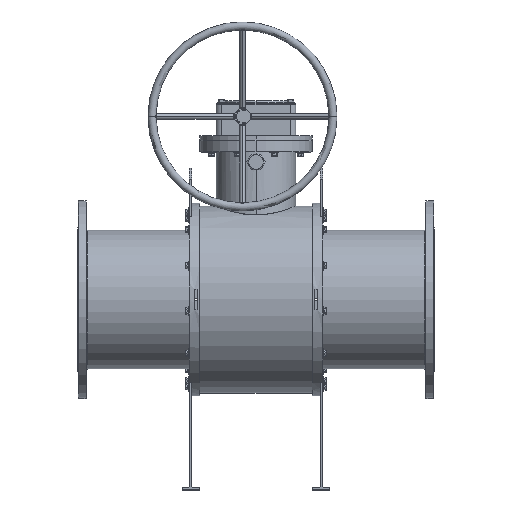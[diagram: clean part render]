
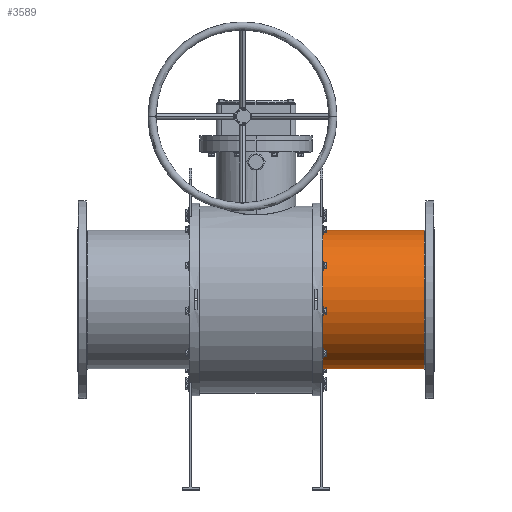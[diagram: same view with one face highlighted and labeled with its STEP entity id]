
A CAD part, top view. The second image highlights one B-rep face of the part: STEP entity #3589.
In plain terms, the highlighted cylindrical face has radius 256.55 mm (diameter 513.1 mm), a partial arc.
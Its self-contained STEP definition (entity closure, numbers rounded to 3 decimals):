
#908 = CARTESIAN_POINT ( 'NONE',  ( -660.5, -256.55, 0. ) ) ;
#1508 = DIRECTION ( 'NONE',  ( -1., 0., 0. ) ) ;
#2224 = FACE_OUTER_BOUND ( 'NONE', #19584, .T. ) ;
#2437 = ORIENTED_EDGE ( 'NONE', *, *, #27197, .F. ) ;
#2992 = LINE ( 'NONE', #908, #4607 ) ;
#3589 = ADVANCED_FACE ( 'NONE', ( #2224 ), #7669, .T. ) ;
#3769 = EDGE_CURVE ( 'NONE', #25298, #22578, #14478, .T. ) ;
#4088 = EDGE_CURVE ( 'NONE', #22578, #7958, #21546, .T. ) ;
#4607 = VECTOR ( 'NONE', #5347, 1000. ) ;
#5347 = DIRECTION ( 'NONE',  ( -1., 0., 0. ) ) ;
#6121 = CARTESIAN_POINT ( 'NONE',  ( -660.5, 256.55, 0. ) ) ;
#6990 = ORIENTED_EDGE ( 'NONE', *, *, #4088, .T. ) ;
#7669 = CYLINDRICAL_SURFACE ( 'NONE', #25556, 256.55 ) ;
#7845 = EDGE_CURVE ( 'NONE', #19793, #25298, #16600, .T. ) ;
#7958 = VERTEX_POINT ( 'NONE', #22387 ) ;
#9165 = VECTOR ( 'NONE', #23079, 1000. ) ;
#9995 = DIRECTION ( 'NONE',  ( 0., 1., 0. ) ) ;
#11438 = DIRECTION ( 'NONE',  ( 0., -1., 0. ) ) ;
#12434 = ORIENTED_EDGE ( 'NONE', *, *, #3769, .T. ) ;
#13516 = DIRECTION ( 'NONE',  ( -1., 0., 0. ) ) ;
#14478 = LINE ( 'NONE', #6121, #9165 ) ;
#15424 = CARTESIAN_POINT ( 'NONE',  ( 623.5, -256.55, 0. ) ) ;
#16005 = CARTESIAN_POINT ( 'NONE',  ( 623.5, 0., 0. ) ) ;
#16600 = CIRCLE ( 'NONE', #17485, 256.55 ) ;
#16680 = DIRECTION ( 'NONE',  ( 1., 0., 0. ) ) ;
#17485 = AXIS2_PLACEMENT_3D ( 'NONE', #16005, #1508, #9995 ) ;
#18750 = CARTESIAN_POINT ( 'NONE',  ( 247.5, 0., 0. ) ) ;
#18883 = ORIENTED_EDGE ( 'NONE', *, *, #7845, .T. ) ;
#19584 = EDGE_LOOP ( 'NONE', ( #18883, #12434, #6990, #2437 ) ) ;
#19793 = VERTEX_POINT ( 'NONE', #15424 ) ;
#19824 = CARTESIAN_POINT ( 'NONE',  ( 623.5, 256.55, 0. ) ) ;
#21546 = CIRCLE ( 'NONE', #22452, 256.55 ) ;
#22387 = CARTESIAN_POINT ( 'NONE',  ( 247.5, -256.55, 0. ) ) ;
#22452 = AXIS2_PLACEMENT_3D ( 'NONE', #18750, #16680, #25119 ) ;
#22578 = VERTEX_POINT ( 'NONE', #25019 ) ;
#23079 = DIRECTION ( 'NONE',  ( -1., 0., 0. ) ) ;
#24195 = CARTESIAN_POINT ( 'NONE',  ( -660.5, 0., 0. ) ) ;
#25019 = CARTESIAN_POINT ( 'NONE',  ( 247.5, 256.55, 0. ) ) ;
#25119 = DIRECTION ( 'NONE',  ( 0., 0., -1. ) ) ;
#25298 = VERTEX_POINT ( 'NONE', #19824 ) ;
#25556 = AXIS2_PLACEMENT_3D ( 'NONE', #24195, #13516, #11438 ) ;
#27197 = EDGE_CURVE ( 'NONE', #19793, #7958, #2992, .T. ) ;
